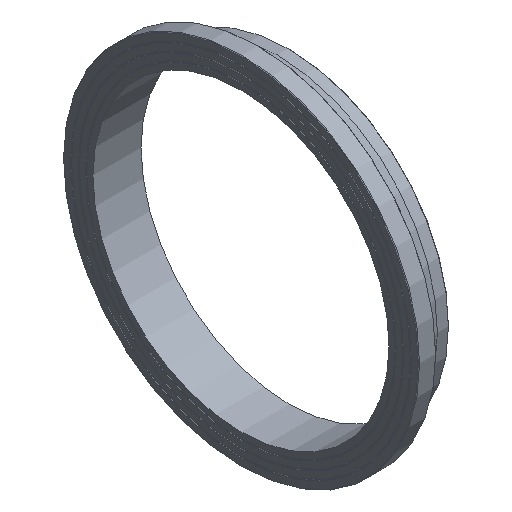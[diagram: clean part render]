
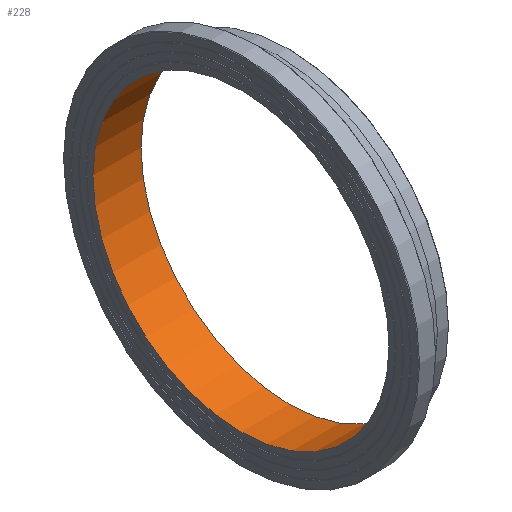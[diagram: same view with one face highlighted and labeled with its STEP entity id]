
A CAD part, isometric view. The second image highlights one B-rep face of the part: STEP entity #228.
In plain terms, the highlighted cylindrical face has radius 369.4 mm (diameter 738.8 mm), a full revolution.
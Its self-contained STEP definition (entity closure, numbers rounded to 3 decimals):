
#33=CYLINDRICAL_SURFACE('',#274,369.4);
#50=ORIENTED_EDGE('',*,*,#79,.F.);
#51=ORIENTED_EDGE('',*,*,#76,.T.);
#76=EDGE_CURVE('',#96,#96,#116,.T.);
#79=EDGE_CURVE('',#99,#99,#119,.T.);
#96=VERTEX_POINT('',#383);
#99=VERTEX_POINT('',#390);
#116=CIRCLE('',#257,369.4);
#119=CIRCLE('',#261,369.4);
#150=EDGE_LOOP('',(#50));
#151=EDGE_LOOP('',(#51));
#190=FACE_BOUND('',#150,.T.);
#191=FACE_BOUND('',#151,.T.);
#228=ADVANCED_FACE('',(#190,#191),#33,.F.);
#257=AXIS2_PLACEMENT_3D('',#382,#303,#304);
#261=AXIS2_PLACEMENT_3D('',#389,#311,#312);
#274=AXIS2_PLACEMENT_3D('',#410,#337,#338);
#303=DIRECTION('',(-1.,0.,0.));
#304=DIRECTION('',(0.,0.,1.));
#311=DIRECTION('',(-1.,0.,0.));
#312=DIRECTION('',(0.,0.,1.));
#337=DIRECTION('',(-1.,0.,0.));
#338=DIRECTION('',(0.,0.,1.));
#382=CARTESIAN_POINT('',(0.,0.,0.));
#383=CARTESIAN_POINT('',(0.,0.,369.4));
#389=CARTESIAN_POINT('',(120.,0.,0.));
#390=CARTESIAN_POINT('',(120.,0.,369.4));
#410=CARTESIAN_POINT('',(60.,0.,0.));
